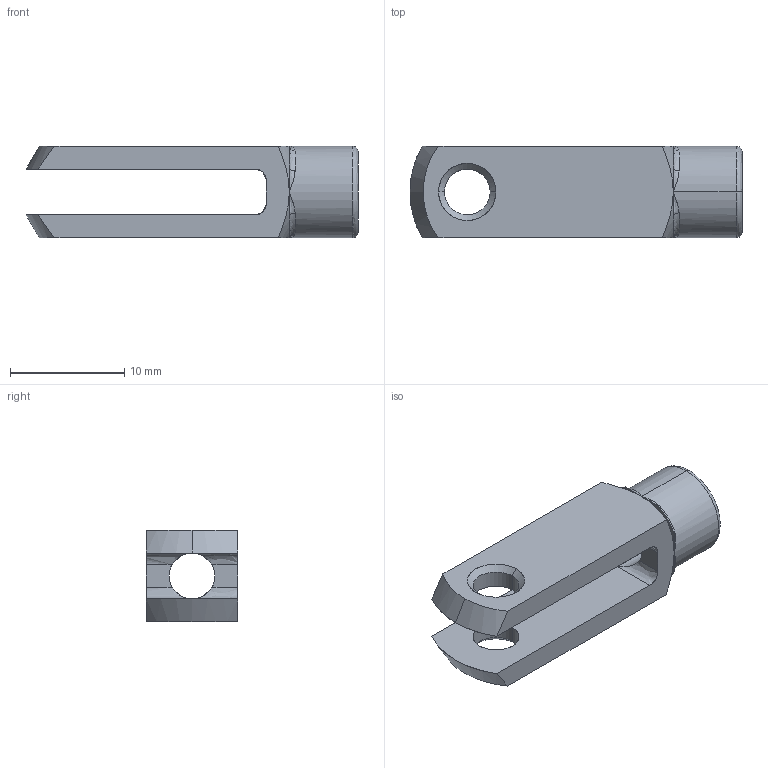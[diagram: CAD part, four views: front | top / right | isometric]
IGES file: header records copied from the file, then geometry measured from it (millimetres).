
Start section: SolidWorks IGES file using analytic representation for surfaces
Global section: file name: C:\Documents and Settings\IANO\My Documents\Wix and Auto CAD Work\CAD Models\Parametric Models\Wix Models\60000\65635_v2\65635_v2_IGES\65635.W0041.igs; native system: SolidWorks 2009; preprocessor: SolidWorks 2009; author: IANO; date: 140117.130337; units: millimetre
Bounding box: 29 x 8 x 8 mm (x, y, z)
Surface area: 1205.1 mm2 (no closed solid volume)
Topology: 0 solids, 0 shells, 52 faces, 638 edges, 630 vertices
Faces by surface type: bspline 27, revolution 25
